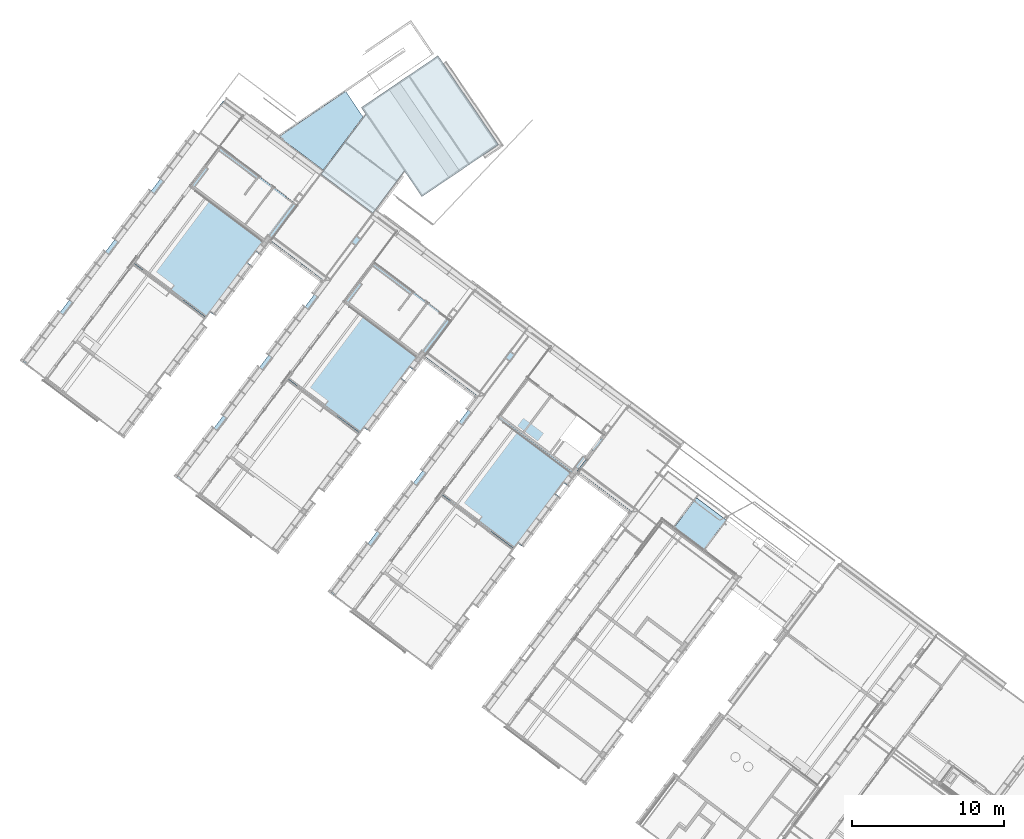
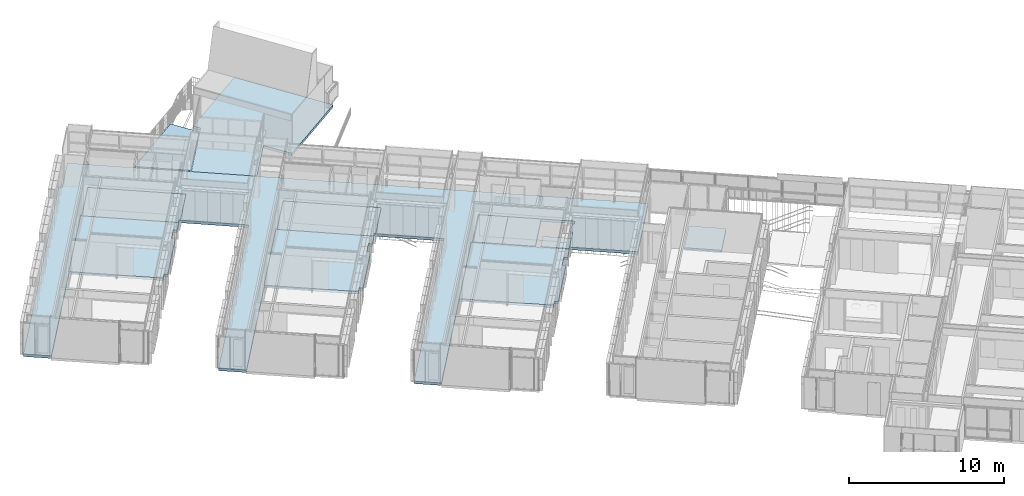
# One storey, part 115 of 243: 12 slabs.
"""IFC2X3 building model written with IfcOpenShell, lengths in metres."""

from ifc_helpers import new_model, entity, si_unit, converted_unit, derived_unit, direction, frame, frame_2d, origin, place, context, subcontext, project, spatial, polyline, rectangle, outline, extrude, material, layer, layer_set, layer_usage, type_object, element, save


model = new_model("IFC2X3")

# Units and contexts
model_context = context("Model", 3, precision=1e-05, world=origin(), true_north=direction((6.123031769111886e-17, 1.0)))
body_context = subcontext(model_context, "Body", "Model", "MODEL_VIEW")
ifc_project = project(units=[si_unit("LENGTHUNIT", "METRE"), si_unit("AREAUNIT", "SQUARE_METRE"), si_unit("VOLUMEUNIT", "CUBIC_METRE"), converted_unit("PLANEANGLEUNIT", "DEGREE", entity("IfcRatioMeasure", 0.017453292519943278), si_unit("PLANEANGLEUNIT", "RADIAN"), dimensions=[0, 0, 0, 0, 0, 0, 0]), si_unit("MASSUNIT", "GRAM", prefix="KILO"), derived_unit("MASSDENSITYUNIT", [(si_unit("MASSUNIT", "GRAM", prefix="KILO"), 1), (si_unit("LENGTHUNIT", "METRE"), -3)]), derived_unit("IONCONCENTRATIONUNIT", [(si_unit("MASSUNIT", "GRAM", prefix="KILO"), 1), (si_unit("LENGTHUNIT", "METRE"), -3)]), derived_unit("MOMENTOFINERTIAUNIT", [(si_unit("LENGTHUNIT", "METRE"), 4)]), si_unit("TIMEUNIT", "SECOND"), si_unit("FREQUENCYUNIT", "HERTZ"), si_unit("THERMODYNAMICTEMPERATUREUNIT", "DEGREE_CELSIUS"), derived_unit("THERMALTRANSMITTANCEUNIT", [(si_unit("MASSUNIT", "GRAM", prefix="KILO"), 1), (si_unit("THERMODYNAMICTEMPERATUREUNIT", "KELVIN"), -1), (si_unit("TIMEUNIT", "SECOND"), -3)]), derived_unit("THERMALCONDUCTANCEUNIT", [(si_unit("MASSUNIT", "GRAM", prefix="KILO"), 1), (si_unit("THERMODYNAMICTEMPERATUREUNIT", "KELVIN"), -1), (si_unit("TIMEUNIT", "SECOND"), -3), (si_unit("LENGTHUNIT", "METRE"), 1)]), derived_unit("VOLUMETRICFLOWRATEUNIT", [(si_unit("LENGTHUNIT", "METRE"), 3), (si_unit("TIMEUNIT", "SECOND"), -1)]), derived_unit("MASSFLOWRATEUNIT", [(si_unit("MASSUNIT", "GRAM", prefix="KILO"), 1), (si_unit("TIMEUNIT", "SECOND"), -1)]), derived_unit("ROTATIONALFREQUENCYUNIT", [(si_unit("TIMEUNIT", "SECOND"), -1)]), si_unit("ELECTRICCURRENTUNIT", "AMPERE"), si_unit("ELECTRICVOLTAGEUNIT", "VOLT"), si_unit("POWERUNIT", "WATT"), si_unit("FORCEUNIT", "NEWTON", prefix="KILO"), si_unit("ILLUMINANCEUNIT", "LUX"), si_unit("LUMINOUSFLUXUNIT", "LUMEN"), si_unit("LUMINOUSINTENSITYUNIT", "CANDELA"), derived_unit("USERDEFINED", [(si_unit("MASSUNIT", "GRAM", prefix="KILO"), -1), (si_unit("LENGTHUNIT", "METRE"), -2), (si_unit("TIMEUNIT", "SECOND"), 3), (si_unit("LUMINOUSFLUXUNIT", "LUMEN"), 1)]), derived_unit("USERDEFINED", [(si_unit("MASSUNIT", "GRAM", prefix="KILO"), 1), (si_unit("TIMEUNIT", "SECOND"), -3), (si_unit("LENGTHUNIT", "METRE"), 3), (si_unit("ELECTRICCURRENTUNIT", "AMPERE"), -2)]), derived_unit("SOUNDPOWERUNIT", [(si_unit("MASSUNIT", "GRAM", prefix="KILO"), 1), (si_unit("TIMEUNIT", "SECOND"), -3), (si_unit("LENGTHUNIT", "METRE"), 2)]), derived_unit("SOUNDPRESSUREUNIT", [(si_unit("MASSUNIT", "GRAM", prefix="KILO"), 1), (si_unit("LENGTHUNIT", "METRE"), -1), (si_unit("TIMEUNIT", "SECOND"), -2)]), derived_unit("LINEARVELOCITYUNIT", [(si_unit("LENGTHUNIT", "METRE"), 1), (si_unit("TIMEUNIT", "SECOND"), -1)]), si_unit("PRESSUREUNIT", "PASCAL"), derived_unit("USERDEFINED", [(si_unit("MASSUNIT", "GRAM", prefix="KILO"), 1), (si_unit("LENGTHUNIT", "METRE"), -2), (si_unit("TIMEUNIT", "SECOND"), -2)]), derived_unit("LINEARFORCEUNIT", [(si_unit("MASSUNIT", "GRAM", prefix="KILO"), 1), (si_unit("TIMEUNIT", "SECOND"), -2)]), derived_unit("PLANARFORCEUNIT", [(si_unit("MASSUNIT", "GRAM", prefix="KILO"), 1), (si_unit("LENGTHUNIT", "METRE"), -1), (si_unit("TIMEUNIT", "SECOND"), -2)]), derived_unit("SPECIFICHEATCAPACITYUNIT", [(si_unit("THERMODYNAMICTEMPERATUREUNIT", "KELVIN"), -1), (si_unit("LENGTHUNIT", "METRE"), 2), (si_unit("TIMEUNIT", "SECOND"), -2)]), derived_unit("HEATINGVALUEUNIT", [(si_unit("LENGTHUNIT", "METRE"), 2), (si_unit("TIMEUNIT", "SECOND"), -2)]), derived_unit("VAPORPERMEABILITYUNIT", [(si_unit("LENGTHUNIT", "METRE"), -1), (si_unit("TIMEUNIT", "SECOND"), 1)]), derived_unit("DYNAMICVISCOSITYUNIT", [(si_unit("MASSUNIT", "GRAM", prefix="KILO"), 1), (si_unit("TIMEUNIT", "SECOND"), -1), (si_unit("LENGTHUNIT", "METRE"), -1)]), derived_unit("THERMALEXPANSIONCOEFFICIENTUNIT", [(si_unit("THERMODYNAMICTEMPERATUREUNIT", "KELVIN"), -1)]), derived_unit("MODULUSOFELASTICITYUNIT", [(si_unit("MASSUNIT", "GRAM", prefix="KILO"), 1), (si_unit("LENGTHUNIT", "METRE"), -1), (si_unit("TIMEUNIT", "SECOND"), -2)]), derived_unit("ISOTHERMALMOISTURECAPACITYUNIT", [(si_unit("LENGTHUNIT", "METRE"), 3), (si_unit("MASSUNIT", "GRAM", prefix="KILO"), -1)]), derived_unit("MOISTUREDIFFUSIVITYUNIT", [(si_unit("TIMEUNIT", "SECOND"), -1), (si_unit("LENGTHUNIT", "METRE"), 2)])], contexts=[model_context])

# Site, building, storey
site_placement = place(None, frame((0.0, 0.0, 235.0), z_axis=(0.0, 0.0, 1.0), x_axis=(-0.7996477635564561, 0.6004693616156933, 0.0)))
site = spatial("IfcSite", under=ifc_project, at=site_placement, Name="Default", CompositionType="ELEMENT")
building_placement = place(site_placement, origin())
building = spatial("IfcBuilding", under=site, at=building_placement, CompositionType="ELEMENT")
storey_placement = place(building_placement, origin())
storey = spatial("IfcBuildingStorey", under=building, at=storey_placement, Name="P0- Escola", CompositionType="ELEMENT", Elevation=0.0)

# Slabs
ifc_material_1 = material(Name="_Formigó antilliscant- T2- PAV")
ifc_layer_1 = layer(ifc_material_1, 0.14)
ifc_material_2 = material(Name="_Aillament")
ifc_layer_2 = layer(ifc_material_2, 0.06)
ifc_layer_set_1 = layer_set([ifc_layer_1, ifc_layer_2], Name="Suelo:PAV- Formigó Antilliscant + aillament- T1- 20 cm")
ifc_layer_usage_1 = layer_usage(ifc_layer_set_1, "AXIS3", "POSITIVE", 0.0)
slab_type_1 = type_object("IfcSlabType", Name="Suelo:PAV- Formigó Antilliscant + aillament- T1- 20 cm", PredefinedType="FLOOR", material=ifc_layer_set_1)
slab_1_placement = place(storey_placement, origin())
element("IfcSlab", 1, at=slab_1_placement, inside=storey, type_object=slab_type_1, material=ifc_layer_usage_1, Name="Suelo:PAV- Formigó Antilliscant + aillament- T1- 20 cm", ObjectType="Suelo:PAV- Formigó Antilliscant + aillament- T1- 20 cm", PredefinedType="FLOOR", context=body_context, shape_type="SweptSolid", body=[
    extrude(outline(polyline([(-7.259984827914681, -19.690488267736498), (-1.754984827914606, -19.690488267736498), (-1.7549848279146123, -15.235300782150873), (-3.4499848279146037, -15.23530078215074), (-3.4499848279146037, -15.095300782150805), (-4.349984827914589, -15.095300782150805), (-4.349984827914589, -15.23530078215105), (-4.682983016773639, -15.23530078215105), (-4.682983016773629, -8.950300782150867), (-1.5179830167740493, -8.950300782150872), (-1.5179830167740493, -8.870300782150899), (14.423265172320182, -8.870300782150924), (14.423265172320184, -7.075300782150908), (-1.7349830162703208, -7.075300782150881), (-1.7349830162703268, -2.5453007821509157), (-4.689984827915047, -2.5453007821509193), (-4.689984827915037, 3.749699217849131), (-1.4699848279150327, 3.749699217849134), (-1.4699848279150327, 3.7996992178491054), (14.491265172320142, 3.7996992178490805), (14.491265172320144, 5.62469921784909), (-1.73498301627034, 5.624699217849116), (-1.7349830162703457, 10.154699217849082), (-4.68998482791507, 10.154699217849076), (-4.68998482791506, 16.44969921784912), (-1.4699848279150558, 16.449699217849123), (-1.4699848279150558, 16.499699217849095), (14.426265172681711, 16.49969921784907), (14.42626517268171, 18.32469921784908), (-4.534984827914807, 18.32469921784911), (-4.534984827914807, 18.094699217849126), (-7.2599848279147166, 18.094699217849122), (-7.259984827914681, -19.690488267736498)])), frame((56.35044846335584, -34.78020693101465, 0.0), z_axis=(0.0, 0.0, -1.0), x_axis=(0.0, 1.0, 0.0)), (0.0, 0.0, 1.0), 0.2),
])
slab_2_placement = place(storey_placement, origin())
element("IfcSlab", 2, at=slab_2_placement, inside=storey, type_object=slab_type_1, material=ifc_layer_usage_1, Name="Suelo:PAV- Formigó Antilliscant + aillament- T1- 20 cm", ObjectType="Suelo:PAV- Formigó Antilliscant + aillament- T1- 20 cm", PredefinedType="FLOOR", context=body_context, shape_type="SweptSolid", body=[
    extrude(rectangle(XDim=1.1749999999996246, YDim=1.8550000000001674, at=frame_2d((-2.1649348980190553e-15, 0.0), x_axis=(1.0, 0.0))), frame((42.04264768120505, -36.95568994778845, 0.0), z_axis=(0.0, 0.0, -1.0), x_axis=(0.0, 1.0, 0.0)), (0.0, 0.0, 1.0), 0.2),
])
slab_3_placement = place(storey_placement, origin())
element("IfcSlab", 3, at=slab_3_placement, inside=storey, type_object=slab_type_1, material=ifc_layer_usage_1, Name="Suelo:PAV- Formigó Antilliscant + aillament- T1- 20 cm", ObjectType="Suelo:PAV- Formigó Antilliscant + aillament- T1- 20 cm", PredefinedType="FLOOR", context=body_context, shape_type="SweptSolid", body=[
    extrude(rectangle(XDim=3.094999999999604, YDim=2.154999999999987, at=frame_2d((-2.220446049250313e-15, -4.3298697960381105e-15), x_axis=(1.0, 0.0))), frame((44.387647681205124, -37.915689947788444, 0.0), z_axis=(0.0, 0.0, -1.0), x_axis=(0.0, 1.0, 0.0)), (0.0, 0.0, 1.0), 0.2),
])
slab_4_placement = place(storey_placement, origin())
element("IfcSlab", 4, at=slab_4_placement, inside=storey, type_object=slab_type_1, material=ifc_layer_usage_1, Name="Suelo:PAV- Formigó Antilliscant + aillament- T1- 20 cm", ObjectType="Suelo:PAV- Formigó Antilliscant + aillament- T1- 20 cm", PredefinedType="FLOOR", context=body_context, shape_type="SweptSolid", body=[
    extrude(rectangle(XDim=3.0949999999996, YDim=1.8899999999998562, at=frame_2d((-4.3298697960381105e-15, -4.3298697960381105e-15), x_axis=(1.0, 0.0))), frame((46.41014768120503, -37.915689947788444, 0.0), z_axis=(0.0, 0.0, -1.0), x_axis=(0.0, 1.0, 0.0)), (0.0, 0.0, 1.0), 0.2),
])
slab_5_placement = place(storey_placement, origin())
element("IfcSlab", 5, at=slab_5_placement, inside=storey, type_object=slab_type_1, material=ifc_layer_usage_1, Name="Suelo:PAV- Formigó Antilliscant + aillament- T1- 20 cm", ObjectType="Suelo:PAV- Formigó Antilliscant + aillament- T1- 20 cm", PredefinedType="FLOOR", context=body_context, shape_type="SweptSolid", body=[
    extrude(outline(polyline([(-1.1790007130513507, -1.3770000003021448), (2.920999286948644, -1.3770000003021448), (2.920999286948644, -1.1269999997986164), (3.371001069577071, -1.1269999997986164), (3.371001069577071, 5.00800000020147), (-3.0339989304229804, 5.00800000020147), (-3.0339989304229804, -1.3770000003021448), (-2.079000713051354, -1.3770000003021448), (-2.079000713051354, -1.1269999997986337), (-1.1790007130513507, -1.1269999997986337), (-1.1790007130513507, -1.3770000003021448)])), frame((42.47214768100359, -33.28619104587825, 0.0), z_axis=(0.0, 0.0, -1.0), x_axis=(0.0, 1.0, 0.0)), (0.0, 0.0, 1.0), 0.2),
])
slab_6_placement = place(storey_placement, origin())
element("IfcSlab", 6, at=slab_6_placement, inside=storey, type_object=slab_type_1, material=ifc_layer_usage_1, Name="Suelo:PAV- Formigó Antilliscant + aillament- T1- 20 cm", ObjectType="Suelo:PAV- Formigó Antilliscant + aillament- T1- 20 cm", PredefinedType="FLOOR", context=body_context, shape_type="SweptSolid", body=[
    extrude(outline(polyline([(-1.2806216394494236, -4.474547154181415), (2.9870338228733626, -4.474547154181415), (2.9870338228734, 0.463106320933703), (3.4937818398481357, 0.6367474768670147), (1.5164328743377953, 6.4073705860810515), (-5.2001940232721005, 4.105866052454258), (-3.2228450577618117, -1.6647570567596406), (-1.2806216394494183, -0.9992390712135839), (-1.2806216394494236, -4.474547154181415)])), frame((63.39110978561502, -46.51473891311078, 0.0), z_axis=(0.0, 0.0, -1.0), x_axis=(1.0, 0.0, 0.0)), (0.0, 0.0, 1.0), 0.2),
])
slab_7_placement = place(storey_placement, origin())
element("IfcSlab", 7, at=slab_7_placement, inside=storey, type_object=slab_type_1, material=ifc_layer_usage_1, Name="Suelo:PAV- Formigó Antilliscant + aillament- T1- 20 cm", ObjectType="Suelo:PAV- Formigó Antilliscant + aillament- T1- 20 cm", PredefinedType="FLOOR", context=body_context, shape_type="SweptSolid", body=[
    extrude(outline(polyline([(-1.1790007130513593, -1.3770000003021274), (2.9209992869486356, -1.3770000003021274), (2.9209992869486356, -1.126999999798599), (3.3710010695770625, -1.126999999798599), (3.3710010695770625, 5.008000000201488), (-3.033998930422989, 5.008000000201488), (-3.033998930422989, -1.3770000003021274), (-2.0790007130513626, -1.3770000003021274), (-2.0790007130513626, -1.1269999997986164), (-1.1790007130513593, -1.1269999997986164), (-1.1790007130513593, -1.3770000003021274)])), frame((55.17214768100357, -33.28619104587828, 0.0), z_axis=(0.0, 0.0, -1.0), x_axis=(0.0, 1.0, 0.0)), (0.0, 0.0, 1.0), 0.2),
])
slab_8_placement = place(storey_placement, origin())
element("IfcSlab", 8, at=slab_8_placement, inside=storey, type_object=slab_type_1, material=ifc_layer_usage_1, Name="Suelo:PAV- Formigó Antilliscant + aillament- T1- 20 cm", ObjectType="Suelo:PAV- Formigó Antilliscant + aillament- T1- 20 cm", PredefinedType="FLOOR", context=body_context, shape_type="SweptSolid", body=[
    extrude(outline(polyline([(-1.1790007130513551, -1.377000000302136), (2.92099928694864, -1.377000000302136), (2.92099928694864, -1.1269999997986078), (3.371001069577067, -1.1269999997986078), (3.371001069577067, 5.008000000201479), (-3.0339989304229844, 5.008000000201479), (-3.0339989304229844, -1.377000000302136), (-2.079000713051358, -1.377000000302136), (-2.079000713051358, -1.126999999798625), (-1.1790007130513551, -1.126999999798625), (-1.1790007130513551, -1.377000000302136)])), frame((67.87214768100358, -33.28619104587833, 0.0), z_axis=(0.0, 0.0, -1.0), x_axis=(0.0, 1.0, 0.0)), (0.0, 0.0, 1.0), 0.2),
])
ifc_material_3 = material(Name="_Pelfut- PAV")
ifc_layer_3 = layer(ifc_material_3, 0.02)
ifc_layer_4 = layer(ifc_material_1, 0.12)
ifc_layer_5 = layer(ifc_material_2, 0.06)
ifc_layer_set_2 = layer_set([ifc_layer_3, ifc_layer_4, ifc_layer_5], Name="Suelo:PAV- Pelfut + Formigó + aillament- T1- 20 cm")
ifc_layer_usage_2 = layer_usage(ifc_layer_set_2, "AXIS3", "POSITIVE", 0.0)
slab_type_2 = type_object("IfcSlabType", Name="Suelo:PAV- Pelfut + Formigó + aillament- T1- 20 cm", PredefinedType="FLOOR", material=ifc_layer_set_2)
slab_9_placement = place(storey_placement, origin())
element("IfcSlab", 9, at=slab_9_placement, inside=storey, type_object=slab_type_2, material=ifc_layer_usage_2, Name="Suelo:PAV- Pelfut + Formigó + aillament- T1- 20 cm", ObjectType="Suelo:PAV- Pelfut + Formigó + aillament- T1- 20 cm", PredefinedType="FLOOR", context=body_context, shape_type="SweptSolid", body=[
    extrude(rectangle(XDim=2.4839999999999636, YDim=2.427999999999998, at=frame_2d((4.3298697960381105e-15, -2.220446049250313e-15), x_axis=(1.0, 0.0))), frame((32.53514768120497, -38.598191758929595, 0.0), z_axis=(0.0, 0.0, -1.0), x_axis=(0.0, 1.0, 0.0)), (0.0, 0.0, 1.0), 0.2),
])
ifc_material_4 = material(Name="_Vinílic antilliscant- PAV")
ifc_layer_6 = layer(ifc_material_4, 0.0009999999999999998)
ifc_layer_7 = layer(ifc_material_1, 0.139)
ifc_layer_8 = layer(ifc_material_2, 0.06)
ifc_layer_set_3 = layer_set([ifc_layer_6, ifc_layer_7, ifc_layer_8], Name="Suelo:PAV- Vinilic antilliscant +  Formigó + aillament- T1- 20 cm")
ifc_layer_usage_3 = layer_usage(ifc_layer_set_3, "AXIS3", "POSITIVE", 0.0)
slab_type_3 = type_object("IfcSlabType", Name="Suelo:PAV- Vinilic antilliscant +  Formigó + aillament- T1- 20 cm", PredefinedType="FLOOR", material=ifc_layer_set_3)
slab_10_placement = place(storey_placement, origin())
element("IfcSlab", 10, at=slab_10_placement, inside=storey, type_object=slab_type_3, material=ifc_layer_usage_3, Name="Suelo:PAV- Vinilic antilliscant +  Formigó + aillament- T1- 20 cm", ObjectType="Suelo:PAV- Vinilic antilliscant +  Formigó + aillament- T1- 20 cm", PredefinedType="FLOOR", context=body_context, shape_type="SweptSolid", body=[
    extrude(outline(polyline([(-2.0530000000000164, -2.1616666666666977), (0.8860000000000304, -2.1616666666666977), (0.8860000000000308, -2.0616666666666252), (1.1669999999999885, -2.061666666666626), (1.1669999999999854, 4.223333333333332), (-2.0530000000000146, 4.223333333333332), (-2.0530000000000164, -2.1616666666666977)])), frame((55.87681434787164, -37.41719175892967, 0.0), z_axis=(0.0, 0.0, -1.0), x_axis=(0.0, 1.0, 0.0)), (0.0, 0.0, 1.0), 0.2),
])
slab_11_placement = place(storey_placement, origin())
element("IfcSlab", 11, at=slab_11_placement, inside=storey, type_object=slab_type_3, material=ifc_layer_usage_3, Name="Suelo:PAV- Vinilic antilliscant +  Formigó + aillament- T1- 20 cm", ObjectType="Suelo:PAV- Vinilic antilliscant +  Formigó + aillament- T1- 20 cm", PredefinedType="FLOOR", context=body_context, shape_type="SweptSolid", body=[
    extrude(outline(polyline([(-2.053000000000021, -2.1616666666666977), (0.8860000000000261, -2.1616666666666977), (0.8860000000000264, -2.0616666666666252), (1.1669999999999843, -2.061666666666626), (1.1669999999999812, 4.223333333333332), (-2.053000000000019, 4.223333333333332), (-2.053000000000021, -2.1616666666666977)])), frame((68.57681434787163, -37.41719175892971, 0.0), z_axis=(0.0, 0.0, -1.0), x_axis=(0.0, 1.0, 0.0)), (0.0, 0.0, 1.0), 0.2),
])
ifc_material_5 = material(Name="_Formigó antilliscant- T1 ext- PAV")
ifc_layer_9 = layer(ifc_material_5, 0.18)
ifc_layer_set_4 = layer_set([ifc_layer_9], Name="Suelo:PAV- Formigó Antilliscant- T1 ext- 18 cm")
ifc_layer_usage_4 = layer_usage(ifc_layer_set_4, "AXIS3", "POSITIVE", 0.0)
slab_type_4 = type_object("IfcSlabType", Name="Suelo:PAV- Formigó Antilliscant- T1 ext- 18 cm", PredefinedType="FLOOR", material=ifc_layer_set_4)
slab_12_placement = place(storey_placement, origin())
element("IfcSlab", 12, at=slab_12_placement, inside=storey, type_object=slab_type_4, material=ifc_layer_usage_4, Name="Suelo:PAV- Formigó Antilliscant- T1 ext- 18 cm", ObjectType="Suelo:PAV- Formigó Antilliscant- T1 ext- 18 cm", PredefinedType="FLOOR", context=body_context, shape_type="SweptSolid", body=[
    extrude(outline(polyline([(-2.0253287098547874, -1.4026903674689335), (2.3577930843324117, -1.4026903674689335), (2.3577930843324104, 2.2675672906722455), (-2.6902574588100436, 0.5378134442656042), (-2.0253287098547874, -1.4026903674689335)])), frame((67.84083397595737, -44.697984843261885, -0.12), z_axis=(0.0, 0.0, -1.0), x_axis=(0.0, 1.0, 0.0)), (0.0, 0.0, 1.0), 0.18),
])

save(model, "model.ifc")
